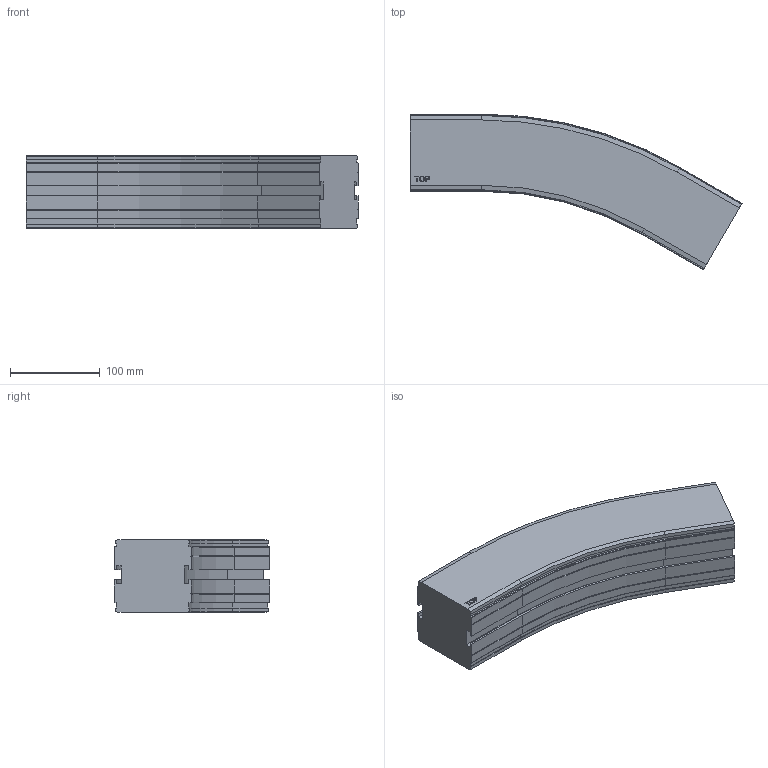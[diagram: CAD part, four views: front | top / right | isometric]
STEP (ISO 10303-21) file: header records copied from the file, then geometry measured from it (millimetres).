
FILE_DESCRIPTION((''),'2;1');
FILE_NAME('C:\Vault Klient\Projekt\Koncept konstruktion\Serie 830 Balk\830-5240.stp','2009-11-27T09:40:42',('Mathias'),(''),'Autodesk Inventor 2010','Autodesk Inventor 2010','');
FILE_SCHEMA(('AUTOMOTIVE_DESIGN { 1 0 10303 214 1 1 1 1 }'));
Length unit declared in the file: millimetre
Products named in the file (1): 830-5240
Bounding box: 370.78 x 173.83 x 81.5 mm (x, y, z)
Volume: 2455619.2 mm3; surface area: 164253.3 mm2
Topology: 1 solids, 1 shells, 169 faces, 446 edges, 284 vertices
Faces by surface type: plane 109, cylinder 30, bspline 14, cone 12, torus 4
Entity records: 5295 total; most frequent: CARTESIAN_POINT 1094, ORIENTED_EDGE 892, DIRECTION 802, EDGE_CURVE 446, VECTOR 346, LINE 346, VERTEX_POINT 284, AXIS2_PLACEMENT_3D 228
